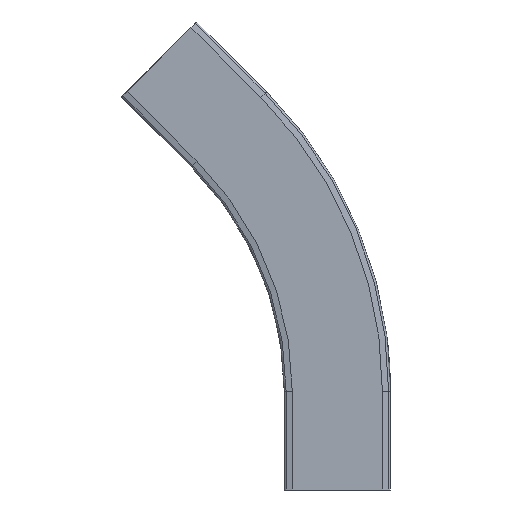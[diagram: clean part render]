
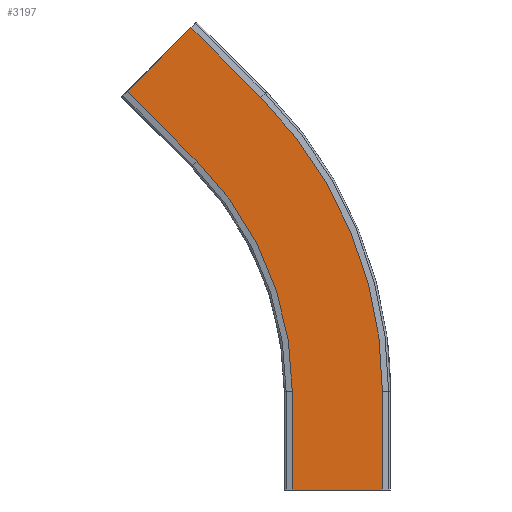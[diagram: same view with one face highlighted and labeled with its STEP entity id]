
A CAD part, front view. The second image highlights one B-rep face of the part: STEP entity #3197.
In plain terms, the highlighted planar face has unit normal (0, -1, 0).
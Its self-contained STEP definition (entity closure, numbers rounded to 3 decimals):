
#325=FACE_OUTER_BOUND('',#493,.T.);
#493=EDGE_LOOP('',(#2915,#2916,#2917,#2918,#2919,#2920,#2921,#2922));
#575=CIRCLE('',#3438,336.5);
#578=CIRCLE('',#3444,263.5);
#888=LINE('',#5517,#1226);
#893=LINE('',#5526,#1231);
#895=LINE('',#5531,#1233);
#910=LINE('',#5571,#1248);
#915=LINE('',#5582,#1253);
#916=LINE('',#5584,#1254);
#1226=VECTOR('',#4179,10.);
#1231=VECTOR('',#4186,10.);
#1233=VECTOR('',#4190,10.);
#1248=VECTOR('',#4231,10.);
#1253=VECTOR('',#4244,10.);
#1254=VECTOR('',#4247,10.);
#1534=VERTEX_POINT('',#5514);
#1535=VERTEX_POINT('',#5516);
#1538=VERTEX_POINT('',#5523);
#1539=VERTEX_POINT('',#5528);
#1549=VERTEX_POINT('',#5554);
#1551=VERTEX_POINT('',#5564);
#1552=VERTEX_POINT('',#5569);
#1554=VERTEX_POINT('',#5580);
#1978=EDGE_CURVE('',#1535,#1534,#888,.T.);
#1983=EDGE_CURVE('',#1535,#1538,#893,.T.);
#1985=EDGE_CURVE('',#1534,#1539,#895,.T.);
#1998=EDGE_CURVE('',#1539,#1549,#575,.T.);
#2004=EDGE_CURVE('',#1538,#1551,#578,.T.);
#2006=EDGE_CURVE('',#1549,#1552,#910,.T.);
#2011=EDGE_CURVE('',#1551,#1554,#915,.T.);
#2012=EDGE_CURVE('',#1552,#1554,#916,.T.);
#2915=ORIENTED_EDGE('',*,*,#2012,.T.);
#2916=ORIENTED_EDGE('',*,*,#2011,.F.);
#2917=ORIENTED_EDGE('',*,*,#2004,.F.);
#2918=ORIENTED_EDGE('',*,*,#1983,.F.);
#2919=ORIENTED_EDGE('',*,*,#1978,.T.);
#2920=ORIENTED_EDGE('',*,*,#1985,.T.);
#2921=ORIENTED_EDGE('',*,*,#1998,.T.);
#2922=ORIENTED_EDGE('',*,*,#2006,.T.);
#3034=PLANE('',#3450);
#3197=ADVANCED_FACE('',(#325),#3034,.T.);
#3438=AXIS2_PLACEMENT_3D('',#5556,#4211,#4212);
#3444=AXIS2_PLACEMENT_3D('',#5567,#4226,#4227);
#3450=AXIS2_PLACEMENT_3D('',#5583,#4245,#4246);
#4179=DIRECTION('',(1.,0.,0.));
#4186=DIRECTION('',(0.,0.,1.));
#4190=DIRECTION('',(0.,0.,1.));
#4211=DIRECTION('center_axis',(0.,-1.,0.));
#4212=DIRECTION('ref_axis',(1.,0.,0.));
#4226=DIRECTION('center_axis',(0.,-1.,0.));
#4227=DIRECTION('ref_axis',(1.,0.,0.));
#4231=DIRECTION('',(-0.707,0.,0.707));
#4244=DIRECTION('',(-0.707,0.,0.707));
#4245=DIRECTION('center_axis',(0.,-1.,0.));
#4246=DIRECTION('ref_axis',(0.707,0.,-0.707));
#4247=DIRECTION('',(-0.707,0.,-0.707));
#5514=CARTESIAN_POINT('',(36.5,-11.,0.));
#5516=CARTESIAN_POINT('',(-36.5,-11.,0.));
#5517=CARTESIAN_POINT('',(-36.5,-11.,0.));
#5523=CARTESIAN_POINT('',(-36.5,-11.,80.));
#5526=CARTESIAN_POINT('',(-36.5,-11.,0.));
#5528=CARTESIAN_POINT('',(36.5,-11.,80.));
#5531=CARTESIAN_POINT('',(36.5,-11.,0.));
#5554=CARTESIAN_POINT('',(-62.059,-11.,317.941));
#5556=CARTESIAN_POINT('Origin',(-300.,-11.,80.));
#5564=CARTESIAN_POINT('',(-113.677,-11.,266.323));
#5567=CARTESIAN_POINT('Origin',(-300.,-11.,80.));
#5569=CARTESIAN_POINT('',(-118.627,-11.,374.51));
#5571=CARTESIAN_POINT('',(161.118,-11.,94.765));
#5580=CARTESIAN_POINT('',(-170.246,-11.,322.891));
#5582=CARTESIAN_POINT('',(109.499,-11.,43.146));
#5583=CARTESIAN_POINT('Origin',(161.118,-11.,94.765));
#5584=CARTESIAN_POINT('',(-130.471,-11.,362.666));
